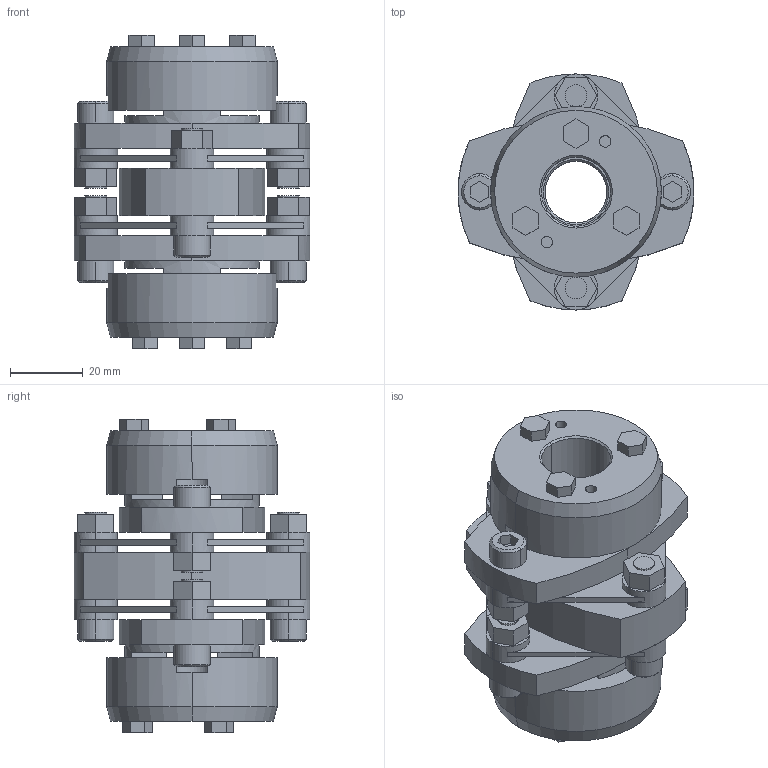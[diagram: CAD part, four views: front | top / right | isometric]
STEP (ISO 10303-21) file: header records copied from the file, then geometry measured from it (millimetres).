
FILE_DESCRIPTION((''),'2;1');
FILE_NAME('LCD-65T7-17×19.stp','2011-08-23T14:00:41',(''),(''),'AutoCAD STEP 2000i','AutoCAD 2000i',', , ');
FILE_SCHEMA(('CONFIG_CONTROL_DESIGN'));
Length unit declared in the file: millimetre
Products named in the file (8): LCD-65T7-17×19; 忣兜1; LC65T7-T019; LC65T7-T017-1; LC65T7-T017; LC65T7-T015-1; LC65T7-T015; LCD65-ITA
Assembly tree (7 placements, depth 2):
  LCD-65T7-17×19
    忣兜1
    LC65T7-T019
    LC65T7-T017-1
    LC65T7-T017
    LC65T7-T015-1
    LC65T7-T015
    LCD65-ITA
Bounding box: 65 x 65 x 86.4 mm (x, y, z)
Volume: 119354.1 mm3; surface area: 41471.3 mm2
Topology: 1 solids, 1 shells, 304 faces, 792 edges, 516 vertices
Faces by surface type: plane 180, cylinder 100, cone 24
Entity records: 9605 total; most frequent: DIRECTION 1708, CARTESIAN_POINT 1620, ORIENTED_EDGE 1584, EDGE_CURVE 792, AXIS2_PLACEMENT_3D 604, VERTEX_POINT 516, VECTOR 500, LINE 500
